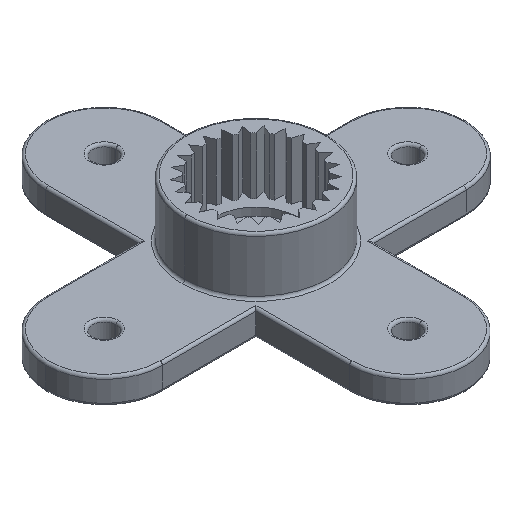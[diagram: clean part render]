
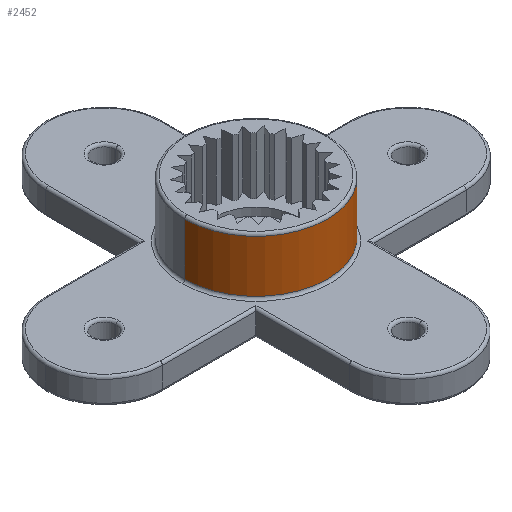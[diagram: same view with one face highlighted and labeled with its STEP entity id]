
A CAD part, isometric view. The second image highlights one B-rep face of the part: STEP entity #2452.
In plain terms, the highlighted cylindrical face has radius 2.75 mm (diameter 5.5 mm), a partial arc.
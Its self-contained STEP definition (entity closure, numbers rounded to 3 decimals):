
#94 = CIRCLE ( 'NONE', #878, 2.75 ) ;
#119 = AXIS2_PLACEMENT_3D ( 'NONE', #4719, #2289, #267 ) ;
#267 = DIRECTION ( 'NONE',  ( -1., 0., 0. ) ) ;
#494 = VECTOR ( 'NONE', #1828, 1000. ) ;
#745 = EDGE_CURVE ( 'NONE', #3581, #3545, #1062, .T. ) ;
#878 = AXIS2_PLACEMENT_3D ( 'NONE', #3476, #3509, #5163 ) ;
#938 = CARTESIAN_POINT ( 'NONE',  ( -2.75, 0., 1.1 ) ) ;
#1062 = LINE ( 'NONE', #5067, #494 ) ;
#1097 = ORIENTED_EDGE ( 'NONE', *, *, #3423, .T. ) ;
#1172 = CARTESIAN_POINT ( 'NONE',  ( -2.75, 0., 3.1 ) ) ;
#1247 = FACE_OUTER_BOUND ( 'NONE', #4976, .T. ) ;
#1270 = ORIENTED_EDGE ( 'NONE', *, *, #2420, .T. ) ;
#1519 = ORIENTED_EDGE ( 'NONE', *, *, #4013, .T. ) ;
#1529 = DIRECTION ( 'NONE',  ( 1., 0., 0. ) ) ;
#1744 = VERTEX_POINT ( 'NONE', #1172 ) ;
#1828 = DIRECTION ( 'NONE',  ( 0., 0., -1. ) ) ;
#2289 = DIRECTION ( 'NONE',  ( 0., 0., -1. ) ) ;
#2420 = EDGE_CURVE ( 'NONE', #1744, #3207, #4682, .T. ) ;
#2445 = CYLINDRICAL_SURFACE ( 'NONE', #119, 2.75 ) ;
#2452 = ADVANCED_FACE ( 'NONE', ( #1247 ), #2445, .T. ) ;
#2511 = VECTOR ( 'NONE', #3956, 1000. ) ;
#2851 = ORIENTED_EDGE ( 'NONE', *, *, #745, .F. ) ;
#2886 = CIRCLE ( 'NONE', #4160, 2.75 ) ;
#3118 = DIRECTION ( 'NONE',  ( 0., 0., -1. ) ) ;
#3207 = VERTEX_POINT ( 'NONE', #938 ) ;
#3423 = EDGE_CURVE ( 'NONE', #3581, #1744, #2886, .T. ) ;
#3476 = CARTESIAN_POINT ( 'NONE',  ( 0., 0., 1.1 ) ) ;
#3509 = DIRECTION ( 'NONE',  ( 0., 0., 1. ) ) ;
#3540 = CARTESIAN_POINT ( 'NONE',  ( -2.75, 0., 1. ) ) ;
#3545 = VERTEX_POINT ( 'NONE', #3594 ) ;
#3551 = CARTESIAN_POINT ( 'NONE',  ( 0., 0., 3.1 ) ) ;
#3581 = VERTEX_POINT ( 'NONE', #3783 ) ;
#3594 = CARTESIAN_POINT ( 'NONE',  ( 2.75, 0., 1.1 ) ) ;
#3783 = CARTESIAN_POINT ( 'NONE',  ( 2.75, 0., 3.1 ) ) ;
#3956 = DIRECTION ( 'NONE',  ( 0., 0., -1. ) ) ;
#4013 = EDGE_CURVE ( 'NONE', #3207, #3545, #94, .T. ) ;
#4160 = AXIS2_PLACEMENT_3D ( 'NONE', #3551, #3118, #1529 ) ;
#4682 = LINE ( 'NONE', #3540, #2511 ) ;
#4719 = CARTESIAN_POINT ( 'NONE',  ( 0., 0., 1. ) ) ;
#4976 = EDGE_LOOP ( 'NONE', ( #2851, #1097, #1270, #1519 ) ) ;
#5067 = CARTESIAN_POINT ( 'NONE',  ( 2.75, 0., 1. ) ) ;
#5163 = DIRECTION ( 'NONE',  ( 1., 0., 0. ) ) ;
